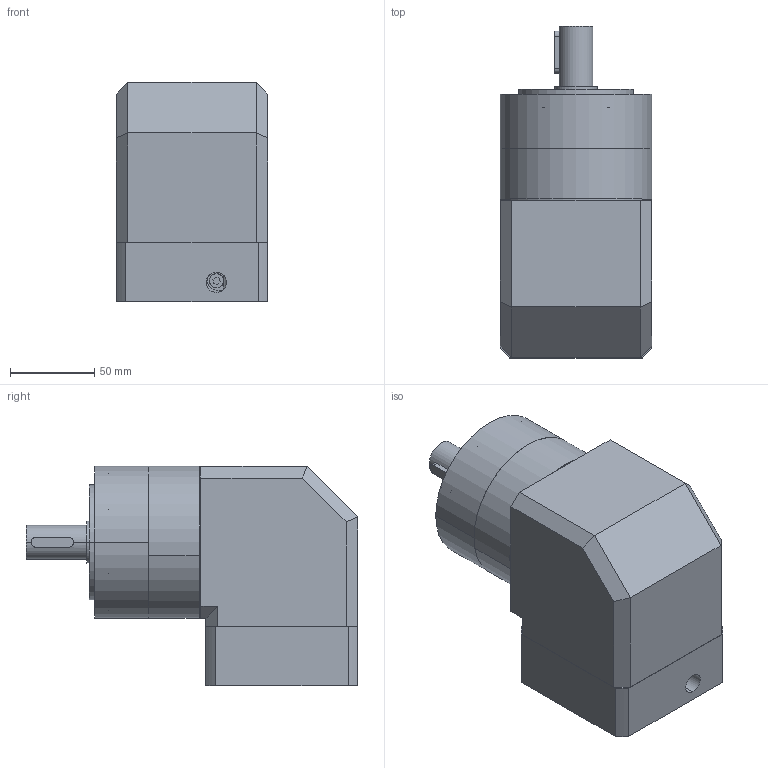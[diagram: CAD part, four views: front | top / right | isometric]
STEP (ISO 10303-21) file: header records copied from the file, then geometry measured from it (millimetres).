
FILE_DESCRIPTION (( 'STEP AP203' ), '1' );
FILE_NAME ('PEZ090-L1-5-86-12.7x38.STEP', '2020-11-30T08:48:49', ( 'USER-' ), ( 'MS' ), 'SwSTEP 2.0', 'SolidWorks 2018', '' );
FILE_SCHEMA (( 'CONFIG_CONTROL_DESIGN' ));
Length unit declared in the file: millimetre
Products named in the file (9): ______ 6x6x25^PEZ090-L1(2)_PEZ090-L1; PEZ090-L1-5-86-12.7x38; PVFN90 ____^PEZ090-L1(2)_PEZ090-L1; PRF90 _________________^PEZ090-L1(2)_PEZ090-L1; PRL90 ___w__^PEZ090-L1(2)_PEZ090-L1; PVFN90-______^PEZ090-L1(2)_PEZ090-L1; PVFN90-______-0^PEZ090-L1(2)_PEZ090-L1; M5 x 20^PEZ090-L1(2)_PEZ090-L1; ____-3206A 30x62x23.8_2^PEZ090-L1(2)_PEZ090-L1
Assembly tree (8 placements, depth 2):
  PEZ090-L1-5-86-12.7x38
    PVFN90 ____^PEZ090-L1(2)_PEZ090-L1
    PRF90 _________________^PEZ090-L1(2)_PEZ090-L1
    PRL90 ___w__^PEZ090-L1(2)_PEZ090-L1
    PVFN90-______^PEZ090-L1(2)_PEZ090-L1
    PVFN90-______-0^PEZ090-L1(2)_PEZ090-L1
    M5 x 20^PEZ090-L1(2)_PEZ090-L1
    ____-3206A 30x62x23.8_2^PEZ090-L1(2)_PEZ090-L1
    ______ 6x6x25^PEZ090-L1(2)_PEZ090-L1
Bounding box: 90 x 196.5 x 130 mm (x, y, z)
Volume: 1360367.3 mm3; surface area: 189078.4 mm2
Topology: 8 solids, 8 shells, 582 faces, 1753 edges, 1083 vertices
Faces by surface type: cylinder 182, plane 180, sphere 96, torus 90, cone 34
Entity records: 21009 total; most frequent: CARTESIAN_POINT 5376, ORIENTED_EDGE 3162, DIRECTION 3040, EDGE_CURVE 1581, AXIS2_PLACEMENT_3D 1261, VERTEX_POINT 1035, EDGE_LOOP 670, CIRCLE 668
